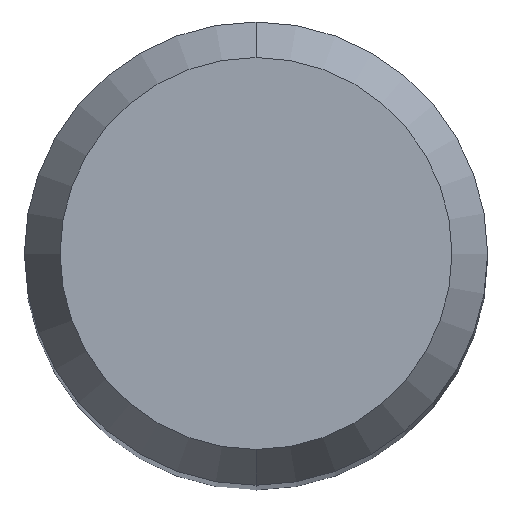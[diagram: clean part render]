
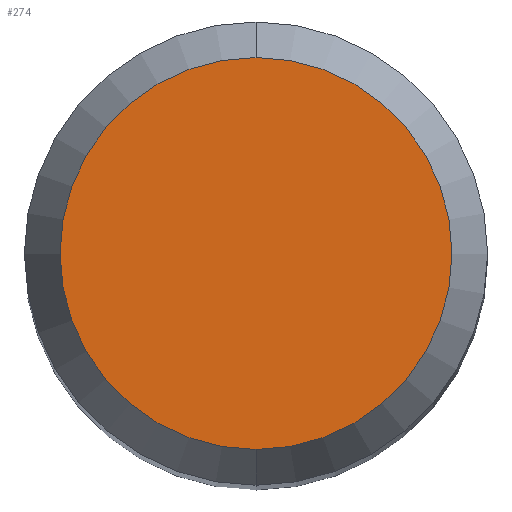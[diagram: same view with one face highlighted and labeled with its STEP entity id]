
A CAD part, top view. The second image highlights one B-rep face of the part: STEP entity #274.
In plain terms, the highlighted planar face has unit normal (0, 0, 1).
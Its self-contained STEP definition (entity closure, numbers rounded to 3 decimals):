
#274=ADVANCED_FACE('',(#692),#693,.T.);
#392=EDGE_CURVE('',#428,#534,#822,.T.);
#428=VERTEX_POINT('',#860);
#456=EDGE_CURVE('',#534,#428,#893,.T.);
#534=VERTEX_POINT('',#981);
#692=FACE_OUTER_BOUND('',#1175,.T.);
#693=PLANE('',#1176);
#822=CIRCLE('',#1405,2.538);
#860=CARTESIAN_POINT('',(0.0,2.538,0.0));
#893=CIRCLE('',#1536,2.538);
#981=CARTESIAN_POINT('',(0.,-2.538,0.0));
#1175=EDGE_LOOP('',(#1930,#1931));
#1176=AXIS2_PLACEMENT_3D('',#1932,#1933,#1934);
#1405=AXIS2_PLACEMENT_3D('',#2085,#2086,#2087);
#1536=AXIS2_PLACEMENT_3D('',#2166,#2167,#2168);
#1930=ORIENTED_EDGE('',*,*,#392,.F.);
#1931=ORIENTED_EDGE('',*,*,#456,.F.);
#1932=CARTESIAN_POINT('',(0.0,1.269,0.0));
#1933=DIRECTION('',(-0.0,0.0,1.0));
#1934=DIRECTION('',(0.0,-1.0,0.0));
#2085=CARTESIAN_POINT('',(0.0,0.0,0.0));
#2086=DIRECTION('',(0.0,0.0,-1.0));
#2087=DIRECTION('',(0.0,1.0,0.0));
#2166=CARTESIAN_POINT('',(0.0,0.0,0.0));
#2167=DIRECTION('',(0.0,0.0,-1.0));
#2168=DIRECTION('',(0.0,1.0,0.0));
